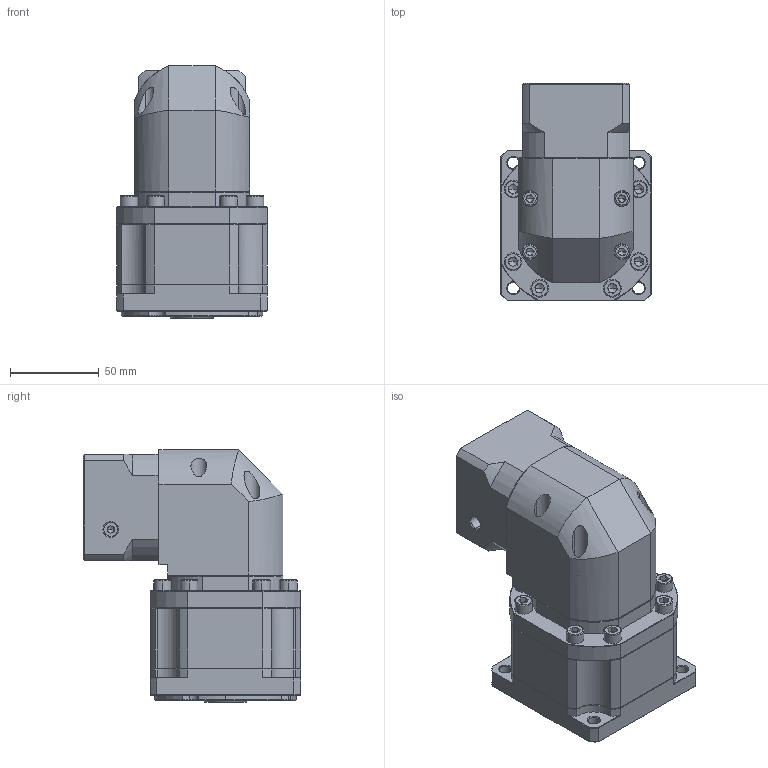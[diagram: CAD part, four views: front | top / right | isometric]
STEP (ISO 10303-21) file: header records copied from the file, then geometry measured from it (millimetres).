
FILE_DESCRIPTION (( 'STEP AP214' ), '1' );
FILE_NAME ('ZBR090-K15-L2-P2-6.35-38.1-47.14x47.14-M4.step', '2023-08-19T04:01:52', ( '' ), ( '' ), 'SwSTEP 2.0', 'SolidWorks 2016', '' );
FILE_SCHEMA (( 'AUTOMOTIVE_DESIGN' ));
Length unit declared in the file: millimetre
Products named in the file (1): ZBR090-K15-L2-P2-6.35-38.1-47.14x47.14-M4
Bounding box: 85 x 122.7 x 142.5 mm (x, y, z)
Volume: 787556.2 mm3; surface area: 99302.5 mm2
Topology: 5 solids, 5 shells, 2384 faces, 6318 edges, 4036 vertices
Faces by surface type: plane 1172, bspline 428, cylinder 412, cone 364, torus 8
Entity records: 121483 total; most frequent: CARTESIAN_POINT 39337, ORIENTED_EDGE 12548, DIRECTION 10109, EDGE_CURVE 6274, VERTEX_POINT 4036, LINE 3973, VECTOR 3973, AXIS2_PLACEMENT_3D 3068
